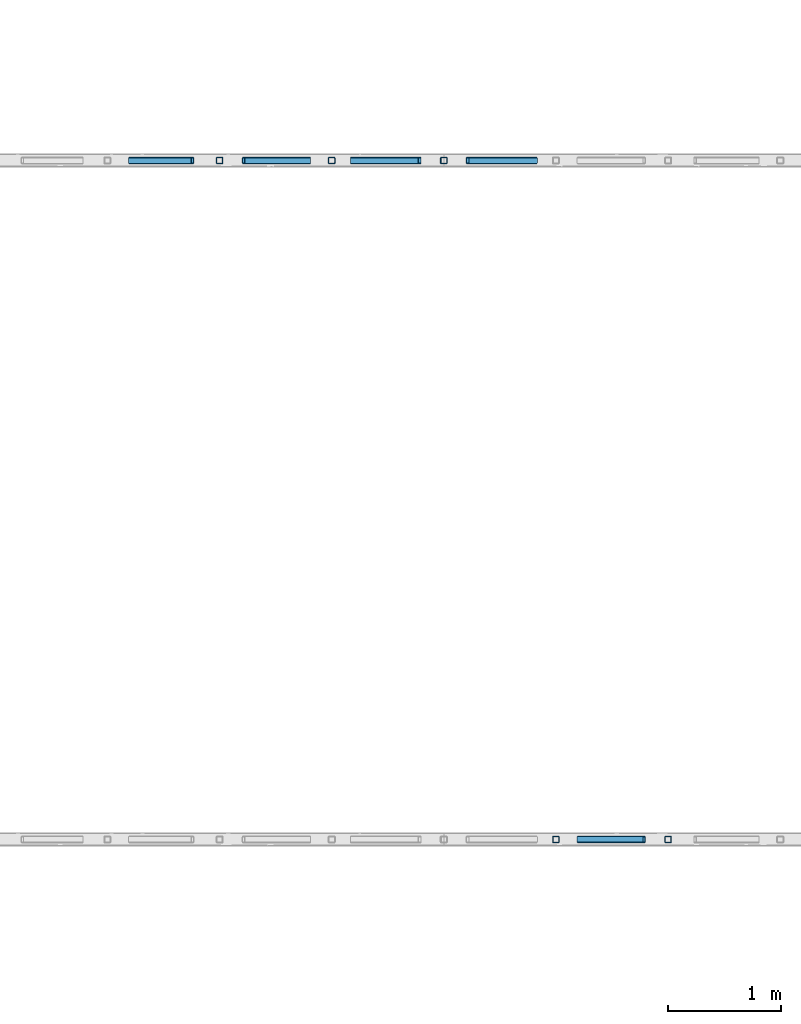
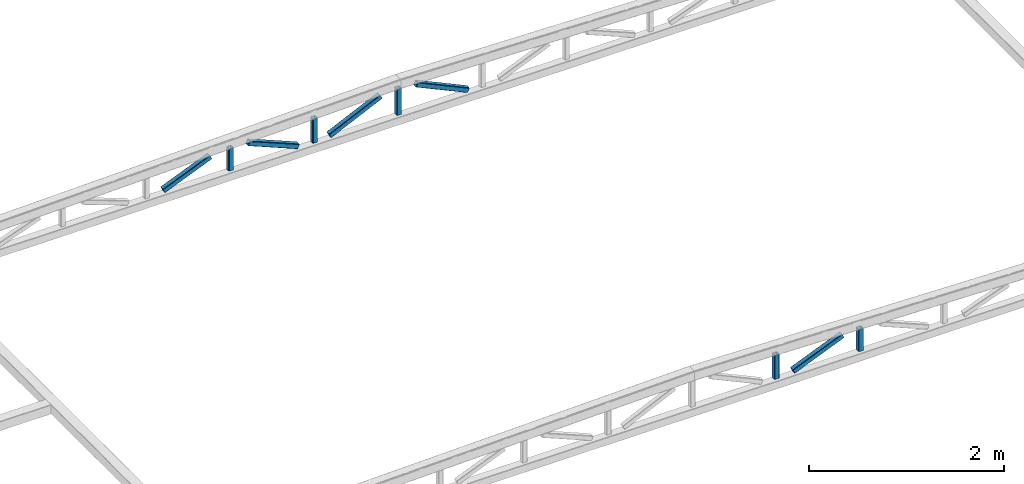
# One storey, part 8 of 10: 10 members, 2 elements without a shape of their own.
"""IFC2X3 building model written with IfcOpenShell, lengths in millimetres."""

from ifc_helpers import new_model, entity, si_unit, converted_unit, derived_unit, direction, frame, frame_2d, origin, place, context, subcontext, project, spatial, polyline, circle_curve, parameter, trimmed, segment, composite_curve, outline, extrude, source, transform, mapped, type_object, type_shapes, element, aggregate, save


model = new_model("IFC2X3")

# Units and contexts
model_context = context("Model", 3, precision=0.01, world=origin(), true_north=direction((6.12303176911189e-17, 1.0)))
body_context = subcontext(model_context, "Body", "Model", "MODEL_VIEW")
ifc_project = project(units=[si_unit("LENGTHUNIT", "METRE", prefix="MILLI"), si_unit("AREAUNIT", "SQUARE_METRE"), si_unit("VOLUMEUNIT", "CUBIC_METRE"), converted_unit("PLANEANGLEUNIT", "DEGREE", entity("IfcRatioMeasure", 0.0174532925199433), si_unit("PLANEANGLEUNIT", "RADIAN"), dimensions=[0, 0, 0, 0, 0, 0, 0]), si_unit("MASSUNIT", "GRAM", prefix="KILO"), derived_unit("MASSDENSITYUNIT", [(si_unit("MASSUNIT", "GRAM", prefix="KILO"), 1), (si_unit("LENGTHUNIT", "METRE"), -3)]), si_unit("TIMEUNIT", "SECOND"), si_unit("FREQUENCYUNIT", "HERTZ"), si_unit("THERMODYNAMICTEMPERATUREUNIT", "DEGREE_CELSIUS"), derived_unit("THERMALTRANSMITTANCEUNIT", [(si_unit("MASSUNIT", "GRAM", prefix="KILO"), 1), (si_unit("THERMODYNAMICTEMPERATUREUNIT", "KELVIN"), -1), (si_unit("TIMEUNIT", "SECOND"), -3)]), derived_unit("VOLUMETRICFLOWRATEUNIT", [(si_unit("LENGTHUNIT", "METRE"), 3), (si_unit("TIMEUNIT", "SECOND"), -1)]), si_unit("ELECTRICCURRENTUNIT", "AMPERE"), si_unit("ELECTRICVOLTAGEUNIT", "VOLT"), si_unit("POWERUNIT", "WATT"), si_unit("FORCEUNIT", "NEWTON", prefix="KILO"), si_unit("ILLUMINANCEUNIT", "LUX"), si_unit("LUMINOUSFLUXUNIT", "LUMEN"), si_unit("LUMINOUSINTENSITYUNIT", "CANDELA"), derived_unit("USERDEFINED", [(si_unit("MASSUNIT", "GRAM", prefix="KILO"), -1), (si_unit("LENGTHUNIT", "METRE"), -2), (si_unit("TIMEUNIT", "SECOND"), 3), (si_unit("LUMINOUSFLUXUNIT", "LUMEN"), 1)]), derived_unit("LINEARVELOCITYUNIT", [(si_unit("LENGTHUNIT", "METRE"), 1), (si_unit("TIMEUNIT", "SECOND"), -1)]), si_unit("PRESSUREUNIT", "PASCAL"), derived_unit("USERDEFINED", [(si_unit("LENGTHUNIT", "METRE"), -2), (si_unit("MASSUNIT", "GRAM", prefix="KILO"), 1), (si_unit("TIMEUNIT", "SECOND"), -2)])], contexts=[model_context])

# Site, building, storey
site_placement = place(None, frame((0.0, 0.0, 101000.0)))
site = spatial("IfcSite", under=ifc_project, at=site_placement, Name="Default", CompositionType="ELEMENT")
building_placement = place(site_placement, origin())
building = spatial("IfcBuilding", under=site, at=building_placement, CompositionType="ELEMENT")
storey_placement = place(building_placement, frame((0.0, 0.0, 6025.0)))
storey = spatial("IfcBuildingStorey", under=building, at=storey_placement, Name="03", CompositionType="ELEMENT", Elevation=6024.9999999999)

# Assembly, member
assembly_1_placement = place(storey_placement, origin())
assembly_1 = element("IfcElementAssembly", 1, at=assembly_1_placement, inside=storey, Name="Gitterdrager:Standard", ObjectType="Gitterdrager:Standard", AssemblyPlace="NOTDEFINED", PredefinedType="TRUSS")
member_type_1 = type_object("IfcMemberType", Name="60x60x5", PredefinedType="BRACE")
shared_shape_1 = source(origin(), body_context, "Body", "SweptSolid", [
    extrude(outline(composite_curve([segment(trimmed(circle_curve(frame_2d((-20.0, -20.0), x_axis=(1.0, 0.0)), 10.0), [parameter(180.0)], [parameter(270.0)], True, "PARAMETER"), True, "CONTINUOUS"), segment(polyline([(-20.0, -30.0), (20.0, -30.0)]), True, "CONTINUOUS"), segment(trimmed(circle_curve(frame_2d((20.0, -20.0), x_axis=(1.0, 0.0)), 10.0), [parameter(270.0)], [parameter(5.08888749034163e-14)], True, "PARAMETER"), True, "CONTINUOUS"), segment(polyline([(30.0, -20.0), (30.0, 20.0)]), True, "CONTINUOUS"), segment(trimmed(circle_curve(frame_2d((20.0, 20.0), x_axis=(1.0, 0.0)), 10.0), [parameter(360.0)], [parameter(89.9999999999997)], True, "PARAMETER"), True, "CONTINUOUS"), segment(polyline([(20.0, 30.0), (-20.0, 30.0)]), True, "CONTINUOUS"), segment(trimmed(circle_curve(frame_2d((-20.0, 20.0), x_axis=(1.0, 0.0)), 10.0), [parameter(90.0000000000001)], [parameter(180.0)], True, "PARAMETER"), True, "CONTINUOUS"), segment(polyline([(-30.0, 20.0), (-30.0, -20.0)]), True, "CONTINUOUS")], self_intersect=False), holes=[composite_curve([segment(polyline([(20.0, -25.0), (-20.0, -25.0)]), True, "CONTINUOUS"), segment(trimmed(circle_curve(frame_2d((-20.0, -20.0), x_axis=(1.0, 0.0)), 5.0), [parameter(180.0)], [parameter(270.0)], True, "PARAMETER"), False, "CONTINUOUS"), segment(polyline([(-25.0, -20.0), (-25.0, 20.0)]), True, "CONTINUOUS"), segment(trimmed(circle_curve(frame_2d((-20.0, 20.0), x_axis=(1.0, 0.0)), 5.0), [parameter(90.0000000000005)], [parameter(180.0)], True, "PARAMETER"), False, "CONTINUOUS"), segment(polyline([(-20.0, 25.0), (20.0, 25.0)]), True, "CONTINUOUS"), segment(trimmed(circle_curve(frame_2d((20.0, 20.0), x_axis=(1.0, 0.0)), 5.0), [parameter(0.0)], [parameter(90.0000000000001)], True, "PARAMETER"), False, "CONTINUOUS"), segment(polyline([(25.0, 20.0), (25.0, -20.0)]), True, "CONTINUOUS"), segment(trimmed(circle_curve(frame_2d((20.0, -20.0), x_axis=(1.0, 0.0)), 5.0), [parameter(270.0)], [parameter(4.57999874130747e-13)], True, "PARAMETER"), False, "CONTINUOUS")], self_intersect=False)]), frame((-168.190907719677, 0.0, 0.0), z_axis=(1.0, 0.0, 0.0), x_axis=(0.0, -1.0, 0.0)), (0.0, 0.0, 1.0), 324.846388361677),
])
type_shapes(member_type_1, [shared_shape_1])
member_1_placement = place(assembly_1_placement, frame((17226.2644969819, 38432.1864743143, -110.132847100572), z_axis=(1.0, 0.0, 0.0), x_axis=(0.0, 0.0, 1.0)))
member_1 = element("IfcMember", 2, at=member_1_placement, type_object=member_type_1, Name="Bjelke HUP:60x60x5", ObjectType="60x60x5", context=body_context, shape_type="MappedRepresentation", body=[
    mapped(shared_shape_1, transform((0.0, 0.0, 0.0), scale=1.0)),
])

assembly_2_placement = place(storey_placement, origin())
assembly_2 = element("IfcElementAssembly", 3, at=assembly_2_placement, inside=storey, Name="Gitterdrager:Standard", ObjectType="Gitterdrager:Standard", AssemblyPlace="NOTDEFINED", PredefinedType="TRUSS")
member_type_2 = type_object("IfcMemberType", Name="60x60x5", PredefinedType="BRACE")
shared_shape_2 = source(origin(), body_context, "Body", "SweptSolid", [
    extrude(outline(composite_curve([segment(trimmed(circle_curve(frame_2d((-20.0, -20.0), x_axis=(1.0, 0.0)), 10.0), [parameter(180.0)], [parameter(270.0)], True, "PARAMETER"), True, "CONTINUOUS"), segment(polyline([(-20.0, -30.0), (20.0, -30.0)]), True, "CONTINUOUS"), segment(trimmed(circle_curve(frame_2d((20.0, -20.0), x_axis=(1.0, 0.0)), 10.0), [parameter(270.0)], [parameter(5.08888749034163e-14)], True, "PARAMETER"), True, "CONTINUOUS"), segment(polyline([(30.0, -20.0), (30.0, 20.0)]), True, "CONTINUOUS"), segment(trimmed(circle_curve(frame_2d((20.0, 20.0), x_axis=(1.0, 0.0)), 10.0), [parameter(360.0)], [parameter(89.9999999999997)], True, "PARAMETER"), True, "CONTINUOUS"), segment(polyline([(20.0, 30.0), (-20.0, 30.0)]), True, "CONTINUOUS"), segment(trimmed(circle_curve(frame_2d((-20.0, 20.0), x_axis=(1.0, 0.0)), 10.0), [parameter(90.0000000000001)], [parameter(180.0)], True, "PARAMETER"), True, "CONTINUOUS"), segment(polyline([(-30.0, 20.0), (-30.0, -20.0)]), True, "CONTINUOUS")], self_intersect=False), holes=[composite_curve([segment(polyline([(20.0, -25.0), (-20.0, -25.0)]), True, "CONTINUOUS"), segment(trimmed(circle_curve(frame_2d((-20.0, -20.0), x_axis=(1.0, 0.0)), 5.0), [parameter(180.0)], [parameter(270.0)], True, "PARAMETER"), False, "CONTINUOUS"), segment(polyline([(-25.0, -20.0), (-25.0, 20.0)]), True, "CONTINUOUS"), segment(trimmed(circle_curve(frame_2d((-20.0, 20.0), x_axis=(1.0, 0.0)), 5.0), [parameter(90.0000000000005)], [parameter(180.0)], True, "PARAMETER"), False, "CONTINUOUS"), segment(polyline([(-20.0, 25.0), (20.0, 25.0)]), True, "CONTINUOUS"), segment(trimmed(circle_curve(frame_2d((20.0, 20.0), x_axis=(1.0, 0.0)), 5.0), [parameter(0.0)], [parameter(90.0000000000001)], True, "PARAMETER"), False, "CONTINUOUS"), segment(polyline([(25.0, 20.0), (25.0, -20.0)]), True, "CONTINUOUS"), segment(trimmed(circle_curve(frame_2d((20.0, -20.0), x_axis=(1.0, 0.0)), 5.0), [parameter(270.0)], [parameter(4.57999874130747e-13)], True, "PARAMETER"), False, "CONTINUOUS")], self_intersect=False)]), frame((-155.792423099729, 0.0, 0.0), z_axis=(1.0, 0.0, 0.0), x_axis=(0.0, -1.0, 0.0)), (0.0, 0.0, 1.0), 300.049419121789),
])
type_shapes(member_type_2, [shared_shape_2])
member_2_placement = place(assembly_2_placement, frame((18219.5978303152, 32417.9507529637, -122.531331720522), z_axis=(1.0, 0.0, 0.0), x_axis=(0.0, 0.0, 1.0)))
member_2 = element("IfcMember", 4, at=member_2_placement, type_object=member_type_2, Name="Bjelke HUP:60x60x5", ObjectType="60x60x5", context=body_context, shape_type="MappedRepresentation", body=[
    mapped(shared_shape_2, transform((0.0, 0.0, 0.0), scale=1.0)),
])

# Member
member_3_placement = place(assembly_1_placement, frame((16232.9311636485, 38432.1864743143, -122.531331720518), z_axis=(1.0, 0.0, 0.0), x_axis=(0.0, 0.0, 1.0)))
member_3 = element("IfcMember", 5, at=member_3_placement, type_object=member_type_2, Name="Bjelke HUP:60x60x5", ObjectType="60x60x5", context=body_context, shape_type="MappedRepresentation", body=[
    mapped(shared_shape_2, transform((0.0, 0.0, 0.0), scale=1.0)),
])

member_type_3 = type_object("IfcMemberType", Name="60x60x5", PredefinedType="BRACE")
shared_shape_3 = source(origin(), body_context, "Body", "SweptSolid", [
    extrude(outline(composite_curve([segment(trimmed(circle_curve(frame_2d((-20.0, -20.0), x_axis=(1.0, 0.0)), 10.0), [parameter(180.0)], [parameter(270.0)], True, "PARAMETER"), True, "CONTINUOUS"), segment(polyline([(-20.0, -30.0), (20.0, -30.0)]), True, "CONTINUOUS"), segment(trimmed(circle_curve(frame_2d((20.0, -20.0), x_axis=(1.0, 0.0)), 10.0), [parameter(270.0)], [parameter(5.08888749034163e-14)], True, "PARAMETER"), True, "CONTINUOUS"), segment(polyline([(30.0, -20.0), (30.0, 20.0)]), True, "CONTINUOUS"), segment(trimmed(circle_curve(frame_2d((20.0, 20.0), x_axis=(1.0, 0.0)), 10.0), [parameter(360.0)], [parameter(89.9999999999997)], True, "PARAMETER"), True, "CONTINUOUS"), segment(polyline([(20.0, 30.0), (-20.0, 30.0)]), True, "CONTINUOUS"), segment(trimmed(circle_curve(frame_2d((-20.0, 20.0), x_axis=(1.0, 0.0)), 10.0), [parameter(90.0000000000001)], [parameter(180.0)], True, "PARAMETER"), True, "CONTINUOUS"), segment(polyline([(-30.0, 20.0), (-30.0, -20.0)]), True, "CONTINUOUS")], self_intersect=False), holes=[composite_curve([segment(polyline([(20.0, -25.0), (-20.0, -25.0)]), True, "CONTINUOUS"), segment(trimmed(circle_curve(frame_2d((-20.0, -20.0), x_axis=(1.0, 0.0)), 5.0), [parameter(180.0)], [parameter(270.0)], True, "PARAMETER"), False, "CONTINUOUS"), segment(polyline([(-25.0, -20.0), (-25.0, 20.0)]), True, "CONTINUOUS"), segment(trimmed(circle_curve(frame_2d((-20.0, 20.0), x_axis=(1.0, 0.0)), 5.0), [parameter(90.0000000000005)], [parameter(180.0)], True, "PARAMETER"), False, "CONTINUOUS"), segment(polyline([(-20.0, 25.0), (20.0, 25.0)]), True, "CONTINUOUS"), segment(trimmed(circle_curve(frame_2d((20.0, 20.0), x_axis=(1.0, 0.0)), 5.0), [parameter(0.0)], [parameter(90.0000000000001)], True, "PARAMETER"), False, "CONTINUOUS"), segment(polyline([(25.0, 20.0), (25.0, -20.0)]), True, "CONTINUOUS"), segment(trimmed(circle_curve(frame_2d((20.0, -20.0), x_axis=(1.0, 0.0)), 5.0), [parameter(270.0)], [parameter(4.57999874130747e-13)], True, "PARAMETER"), False, "CONTINUOUS")], self_intersect=False)]), frame((-143.393968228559, 0.0, 0.0), z_axis=(1.0, 0.0, 0.0), x_axis=(0.0, -1.0, 0.0)), (0.0, 0.0, 1.0), 275.252509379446),
])
type_shapes(member_type_3, [shared_shape_3])
member_4_placement = place(assembly_1_placement, frame((15239.6002137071, 38432.1864743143, -134.929786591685), z_axis=(1.0, 0.0, 0.0), x_axis=(0.0, 0.0, 1.0)))
member_4 = element("IfcMember", 6, at=member_4_placement, type_object=member_type_3, Name="Bjelke HUP:60x60x5", ObjectType="60x60x5", context=body_context, shape_type="MappedRepresentation", body=[
    mapped(shared_shape_3, transform((0.0, 0.0, 0.0), scale=1.0)),
])

member_type_4 = type_object("IfcMemberType", Name="60x60x5", PredefinedType="BRACE")
shared_shape_4 = source(origin(), body_context, "Body", "SweptSolid", [
    extrude(outline(composite_curve([segment(trimmed(circle_curve(frame_2d((-20.0, -20.0), x_axis=(1.0, 0.0)), 10.0), [parameter(180.0)], [parameter(270.0)], True, "PARAMETER"), True, "CONTINUOUS"), segment(polyline([(-20.0, -30.0), (20.0, -30.0)]), True, "CONTINUOUS"), segment(trimmed(circle_curve(frame_2d((20.0, -20.0), x_axis=(1.0, 0.0)), 10.0), [parameter(270.0)], [parameter(5.08888749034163e-14)], True, "PARAMETER"), True, "CONTINUOUS"), segment(polyline([(30.0, -20.0), (30.0, 20.0)]), True, "CONTINUOUS"), segment(trimmed(circle_curve(frame_2d((20.0, 20.0), x_axis=(1.0, 0.0)), 10.0), [parameter(360.0)], [parameter(89.9999999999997)], True, "PARAMETER"), True, "CONTINUOUS"), segment(polyline([(20.0, 30.0), (-20.0, 30.0)]), True, "CONTINUOUS"), segment(trimmed(circle_curve(frame_2d((-20.0, 20.0), x_axis=(1.0, 0.0)), 10.0), [parameter(90.0000000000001)], [parameter(180.0)], True, "PARAMETER"), True, "CONTINUOUS"), segment(polyline([(-30.0, 20.0), (-30.0, -20.0)]), True, "CONTINUOUS")], self_intersect=False), holes=[composite_curve([segment(polyline([(20.0, -25.0), (-20.0, -25.0)]), True, "CONTINUOUS"), segment(trimmed(circle_curve(frame_2d((-20.0, -20.0), x_axis=(1.0, 0.0)), 5.0), [parameter(180.0)], [parameter(270.0)], True, "PARAMETER"), False, "CONTINUOUS"), segment(polyline([(-25.0, -20.0), (-25.0, 20.0)]), True, "CONTINUOUS"), segment(trimmed(circle_curve(frame_2d((-20.0, 20.0), x_axis=(1.0, 0.0)), 5.0), [parameter(90.0000000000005)], [parameter(180.0)], True, "PARAMETER"), False, "CONTINUOUS"), segment(polyline([(-20.0, 25.0), (20.0, 25.0)]), True, "CONTINUOUS"), segment(trimmed(circle_curve(frame_2d((20.0, 20.0), x_axis=(1.0, 0.0)), 5.0), [parameter(0.0)], [parameter(90.0000000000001)], True, "PARAMETER"), False, "CONTINUOUS"), segment(polyline([(25.0, 20.0), (25.0, -20.0)]), True, "CONTINUOUS"), segment(trimmed(circle_curve(frame_2d((20.0, -20.0), x_axis=(1.0, 0.0)), 5.0), [parameter(270.0)], [parameter(4.57999874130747e-13)], True, "PARAMETER"), False, "CONTINUOUS")], self_intersect=False)]), frame((-143.393938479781, 0.0, 0.0), z_axis=(1.0, 0.0, 0.0), x_axis=(0.0, -1.0, 0.0)), (0.0, 0.0, 1.0), 275.252449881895),
])
type_shapes(member_type_4, [shared_shape_4])
member_5_placement = place(assembly_2_placement, frame((19212.9311636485, 32417.9507529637, -134.929816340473), z_axis=(1.0, 0.0, 0.0), x_axis=(0.0, 0.0, 1.0)))
member_5 = element("IfcMember", 7, at=member_5_placement, type_object=member_type_4, Name="Bjelke HUP:60x60x5", ObjectType="60x60x5", context=body_context, shape_type="MappedRepresentation", body=[
    mapped(shared_shape_4, transform((0.0, 0.0, 0.0), scale=1.0)),
])

member_type_5 = type_object("IfcMemberType", Name="60x60x5", PredefinedType="BRACE")
shared_shape_5 = source(origin(), body_context, "Body", "SweptSolid", [
    extrude(outline(composite_curve([segment(trimmed(circle_curve(frame_2d((-20.0, -20.0), x_axis=(1.0, 0.0)), 10.0), [parameter(180.0)], [parameter(270.0)], True, "PARAMETER"), True, "CONTINUOUS"), segment(polyline([(-20.0, -30.0), (20.0, -30.0)]), True, "CONTINUOUS"), segment(trimmed(circle_curve(frame_2d((20.0, -20.0), x_axis=(1.0, 0.0)), 10.0), [parameter(270.0)], [parameter(5.08888749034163e-14)], True, "PARAMETER"), True, "CONTINUOUS"), segment(polyline([(30.0, -20.0), (30.0, 20.0)]), True, "CONTINUOUS"), segment(trimmed(circle_curve(frame_2d((20.0, 20.0), x_axis=(1.0, 0.0)), 10.0), [parameter(360.0)], [parameter(89.9999999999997)], True, "PARAMETER"), True, "CONTINUOUS"), segment(polyline([(20.0, 30.0), (-20.0, 30.0)]), True, "CONTINUOUS"), segment(trimmed(circle_curve(frame_2d((-20.0, 20.0), x_axis=(1.0, 0.0)), 10.0), [parameter(90.0000000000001)], [parameter(180.0)], True, "PARAMETER"), True, "CONTINUOUS"), segment(polyline([(-30.0, 20.0), (-30.0, -20.0)]), True, "CONTINUOUS")], self_intersect=False), holes=[composite_curve([segment(polyline([(20.0, -25.0), (-20.0, -25.0)]), True, "CONTINUOUS"), segment(trimmed(circle_curve(frame_2d((-20.0, -20.0), x_axis=(1.0, 0.0)), 5.0), [parameter(180.0)], [parameter(270.0)], True, "PARAMETER"), False, "CONTINUOUS"), segment(polyline([(-25.0, -20.0), (-25.0, 20.0)]), True, "CONTINUOUS"), segment(trimmed(circle_curve(frame_2d((-20.0, 20.0), x_axis=(1.0, 0.0)), 5.0), [parameter(90.0000000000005)], [parameter(180.0)], True, "PARAMETER"), False, "CONTINUOUS"), segment(polyline([(-20.0, 25.0), (20.0, 25.0)]), True, "CONTINUOUS"), segment(trimmed(circle_curve(frame_2d((20.0, 20.0), x_axis=(1.0, 0.0)), 5.0), [parameter(0.0)], [parameter(90.0000000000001)], True, "PARAMETER"), False, "CONTINUOUS"), segment(polyline([(25.0, 20.0), (25.0, -20.0)]), True, "CONTINUOUS"), segment(trimmed(circle_curve(frame_2d((20.0, -20.0), x_axis=(1.0, 0.0)), 5.0), [parameter(270.0)], [parameter(4.57999874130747e-13)], True, "PARAMETER"), False, "CONTINUOUS")], self_intersect=False)]), frame((-351.247436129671, 0.0, 0.0), z_axis=(1.0, 0.0, 0.0), x_axis=(0.0, -1.0, 0.0)), (0.0, 0.0, 1.0), 664.357457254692),
])
type_shapes(member_type_5, [shared_shape_5])
member_6_placement = place(assembly_1_placement, frame((16728.5730107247, 38432.1864743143, -110.158430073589), z_axis=(0.422233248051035, 0.0, -0.906487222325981), x_axis=(0.906487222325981, 0.0, 0.422233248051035)))
member_6 = element("IfcMember", 8, at=member_6_placement, type_object=member_type_5, Name="Bjelke HUP:60x60x5", ObjectType="60x60x5", context=body_context, shape_type="MappedRepresentation", body=[
    mapped(shared_shape_5, transform((0.0, 0.0, 0.0), scale=1.0)),
])

member_type_6 = type_object("IfcMemberType", Name="60x60x5", PredefinedType="BRACE")
shared_shape_6 = source(origin(), body_context, "Body", "SweptSolid", [
    extrude(outline(composite_curve([segment(trimmed(circle_curve(frame_2d((-20.0, -20.0), x_axis=(1.0, 0.0)), 10.0), [parameter(180.0)], [parameter(270.0)], True, "PARAMETER"), True, "CONTINUOUS"), segment(polyline([(-20.0, -30.0), (20.0, -30.0)]), True, "CONTINUOUS"), segment(trimmed(circle_curve(frame_2d((20.0, -20.0), x_axis=(1.0, 0.0)), 10.0), [parameter(270.0)], [parameter(5.08888749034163e-14)], True, "PARAMETER"), True, "CONTINUOUS"), segment(polyline([(30.0, -20.0), (30.0, 20.0)]), True, "CONTINUOUS"), segment(trimmed(circle_curve(frame_2d((20.0, 20.0), x_axis=(1.0, 0.0)), 10.0), [parameter(360.0)], [parameter(89.9999999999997)], True, "PARAMETER"), True, "CONTINUOUS"), segment(polyline([(20.0, 30.0), (-20.0, 30.0)]), True, "CONTINUOUS"), segment(trimmed(circle_curve(frame_2d((-20.0, 20.0), x_axis=(1.0, 0.0)), 10.0), [parameter(90.0000000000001)], [parameter(180.0)], True, "PARAMETER"), True, "CONTINUOUS"), segment(polyline([(-30.0, 20.0), (-30.0, -20.0)]), True, "CONTINUOUS")], self_intersect=False), holes=[composite_curve([segment(polyline([(20.0, -25.0), (-20.0, -25.0)]), True, "CONTINUOUS"), segment(trimmed(circle_curve(frame_2d((-20.0, -20.0), x_axis=(1.0, 0.0)), 5.0), [parameter(180.0)], [parameter(270.0)], True, "PARAMETER"), False, "CONTINUOUS"), segment(polyline([(-25.0, -20.0), (-25.0, 20.0)]), True, "CONTINUOUS"), segment(trimmed(circle_curve(frame_2d((-20.0, 20.0), x_axis=(1.0, 0.0)), 5.0), [parameter(90.0000000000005)], [parameter(180.0)], True, "PARAMETER"), False, "CONTINUOUS"), segment(polyline([(-20.0, 25.0), (20.0, 25.0)]), True, "CONTINUOUS"), segment(trimmed(circle_curve(frame_2d((20.0, 20.0), x_axis=(1.0, 0.0)), 5.0), [parameter(0.0)], [parameter(90.0000000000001)], True, "PARAMETER"), False, "CONTINUOUS"), segment(polyline([(25.0, 20.0), (25.0, -20.0)]), True, "CONTINUOUS"), segment(trimmed(circle_curve(frame_2d((20.0, -20.0), x_axis=(1.0, 0.0)), 5.0), [parameter(270.0)], [parameter(4.57999874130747e-13)], True, "PARAMETER"), False, "CONTINUOUS")], self_intersect=False)]), frame((-322.27532019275, 0.0, 0.0), z_axis=(1.0, 0.0, 0.0), x_axis=(0.0, -1.0, 0.0)), (0.0, 0.0, 1.0), 600.830243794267),
])
type_shapes(member_type_6, [shared_shape_6])
member_7_placement = place(assembly_1_placement, frame((14742.9323553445, 38432.1864743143, -134.929786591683), z_axis=(0.383266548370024, 0.0, -0.923637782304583), x_axis=(0.923637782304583, 0.0, 0.383266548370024)))
member_7 = element("IfcMember", 9, at=member_7_placement, type_object=member_type_6, Name="Bjelke HUP:60x60x5", ObjectType="60x60x5", context=body_context, shape_type="MappedRepresentation", body=[
    mapped(shared_shape_6, transform((0.0, 0.0, 0.0), scale=1.0)),
])

member_type_7 = type_object("IfcMemberType", Name="60x60x5", PredefinedType="BRACE")
shared_shape_7 = source(origin(), body_context, "Body", "SweptSolid", [
    extrude(outline(composite_curve([segment(trimmed(circle_curve(frame_2d((-20.0, -20.0), x_axis=(1.0, 0.0)), 10.0), [parameter(180.0)], [parameter(270.0)], True, "PARAMETER"), True, "CONTINUOUS"), segment(polyline([(-20.0, -30.0), (20.0, -30.0)]), True, "CONTINUOUS"), segment(trimmed(circle_curve(frame_2d((20.0, -20.0), x_axis=(1.0, 0.0)), 10.0), [parameter(270.0)], [parameter(5.08888749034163e-14)], True, "PARAMETER"), True, "CONTINUOUS"), segment(polyline([(30.0, -20.0), (30.0, 20.0)]), True, "CONTINUOUS"), segment(trimmed(circle_curve(frame_2d((20.0, 20.0), x_axis=(1.0, 0.0)), 10.0), [parameter(360.0)], [parameter(89.9999999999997)], True, "PARAMETER"), True, "CONTINUOUS"), segment(polyline([(20.0, 30.0), (-20.0, 30.0)]), True, "CONTINUOUS"), segment(trimmed(circle_curve(frame_2d((-20.0, 20.0), x_axis=(1.0, 0.0)), 10.0), [parameter(90.0000000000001)], [parameter(180.0)], True, "PARAMETER"), True, "CONTINUOUS"), segment(polyline([(-30.0, 20.0), (-30.0, -20.0)]), True, "CONTINUOUS")], self_intersect=False), holes=[composite_curve([segment(polyline([(20.0, -25.0), (-20.0, -25.0)]), True, "CONTINUOUS"), segment(trimmed(circle_curve(frame_2d((-20.0, -20.0), x_axis=(1.0, 0.0)), 5.0), [parameter(180.0)], [parameter(270.0)], True, "PARAMETER"), False, "CONTINUOUS"), segment(polyline([(-25.0, -20.0), (-25.0, 20.0)]), True, "CONTINUOUS"), segment(trimmed(circle_curve(frame_2d((-20.0, 20.0), x_axis=(1.0, 0.0)), 5.0), [parameter(90.0000000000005)], [parameter(180.0)], True, "PARAMETER"), False, "CONTINUOUS"), segment(polyline([(-20.0, 25.0), (20.0, 25.0)]), True, "CONTINUOUS"), segment(trimmed(circle_curve(frame_2d((20.0, 20.0), x_axis=(1.0, 0.0)), 5.0), [parameter(0.0)], [parameter(90.0000000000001)], True, "PARAMETER"), False, "CONTINUOUS"), segment(polyline([(25.0, 20.0), (25.0, -20.0)]), True, "CONTINUOUS"), segment(trimmed(circle_curve(frame_2d((20.0, -20.0), x_axis=(1.0, 0.0)), 5.0), [parameter(270.0)], [parameter(4.57999874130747e-13)], True, "PARAMETER"), False, "CONTINUOUS")], self_intersect=False)]), frame((-307.939240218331, 0.0, 0.0), z_axis=(1.0, 0.0, 0.0), x_axis=(0.0, -1.0, 0.0)), (0.0, 0.0, 1.0), 630.213240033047),
])
type_shapes(member_type_7, [shared_shape_7])
member_8_placement = place(assembly_1_placement, frame((15736.2656886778, 38432.1864743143, -134.929786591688), z_axis=(-0.383268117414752, 0.0, -0.923637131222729), x_axis=(0.923637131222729, 0.0, -0.383268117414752)))
member_8 = element("IfcMember", 10, at=member_8_placement, type_object=member_type_7, Name="Bjelke HUP:60x60x5", ObjectType="60x60x5", context=body_context, shape_type="MappedRepresentation", body=[
    mapped(shared_shape_7, transform((0.0, 0.0, 0.0), scale=1.0)),
])

member_type_8 = type_object("IfcMemberType", Name="60x60x5", PredefinedType="BRACE")
shared_shape_8 = source(origin(), body_context, "Body", "SweptSolid", [
    extrude(outline(composite_curve([segment(trimmed(circle_curve(frame_2d((-20.0, -20.0), x_axis=(1.0, 0.0)), 10.0), [parameter(180.0)], [parameter(270.0)], True, "PARAMETER"), True, "CONTINUOUS"), segment(polyline([(-20.0, -30.0), (20.0, -30.0)]), True, "CONTINUOUS"), segment(trimmed(circle_curve(frame_2d((20.0, -20.0), x_axis=(1.0, 0.0)), 10.0), [parameter(270.0)], [parameter(5.08888749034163e-14)], True, "PARAMETER"), True, "CONTINUOUS"), segment(polyline([(30.0, -20.0), (30.0, 20.0)]), True, "CONTINUOUS"), segment(trimmed(circle_curve(frame_2d((20.0, 20.0), x_axis=(1.0, 0.0)), 10.0), [parameter(360.0)], [parameter(89.9999999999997)], True, "PARAMETER"), True, "CONTINUOUS"), segment(polyline([(20.0, 30.0), (-20.0, 30.0)]), True, "CONTINUOUS"), segment(trimmed(circle_curve(frame_2d((-20.0, 20.0), x_axis=(1.0, 0.0)), 10.0), [parameter(90.0000000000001)], [parameter(180.0)], True, "PARAMETER"), True, "CONTINUOUS"), segment(polyline([(-30.0, 20.0), (-30.0, -20.0)]), True, "CONTINUOUS")], self_intersect=False), holes=[composite_curve([segment(polyline([(20.0, -25.0), (-20.0, -25.0)]), True, "CONTINUOUS"), segment(trimmed(circle_curve(frame_2d((-20.0, -20.0), x_axis=(1.0, 0.0)), 5.0), [parameter(180.0)], [parameter(270.0)], True, "PARAMETER"), False, "CONTINUOUS"), segment(polyline([(-25.0, -20.0), (-25.0, 20.0)]), True, "CONTINUOUS"), segment(trimmed(circle_curve(frame_2d((-20.0, 20.0), x_axis=(1.0, 0.0)), 5.0), [parameter(90.0000000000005)], [parameter(180.0)], True, "PARAMETER"), False, "CONTINUOUS"), segment(polyline([(-20.0, 25.0), (20.0, 25.0)]), True, "CONTINUOUS"), segment(trimmed(circle_curve(frame_2d((20.0, 20.0), x_axis=(1.0, 0.0)), 5.0), [parameter(0.0)], [parameter(90.0000000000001)], True, "PARAMETER"), False, "CONTINUOUS"), segment(polyline([(25.0, 20.0), (25.0, -20.0)]), True, "CONTINUOUS"), segment(trimmed(circle_curve(frame_2d((20.0, -20.0), x_axis=(1.0, 0.0)), 5.0), [parameter(270.0)], [parameter(4.57999874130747e-13)], True, "PARAMETER"), False, "CONTINUOUS")], self_intersect=False)]), frame((-314.375226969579, 0.0, 0.0), z_axis=(1.0, 0.0, 0.0), x_axis=(0.0, -1.0, 0.0)), (0.0, 0.0, 1.0), 666.812434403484),
])
type_shapes(member_type_8, [shared_shape_8])
member_9_placement = place(assembly_1_placement, frame((17721.906344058, 38432.1864743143, -110.158430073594), z_axis=(-0.420802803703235, 0.0, -0.907152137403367), x_axis=(0.907152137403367, 0.0, -0.420802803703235)))
member_9 = element("IfcMember", 11, at=member_9_placement, type_object=member_type_8, Name="Bjelke HUP:60x60x5", ObjectType="60x60x5", context=body_context, shape_type="MappedRepresentation", body=[
    mapped(shared_shape_8, transform((0.0, 0.0, 0.0), scale=1.0)),
])

aggregate(assembly_1, [member_1, member_3, member_4, member_6, member_7, member_8, member_9])

member_type_9 = type_object("IfcMemberType", Name="60x60x5", PredefinedType="BRACE")
shared_shape_9 = source(origin(), body_context, "Body", "SweptSolid", [
    extrude(outline(composite_curve([segment(trimmed(circle_curve(frame_2d((-20.0, -20.0), x_axis=(1.0, 0.0)), 10.0), [parameter(180.0)], [parameter(270.0)], True, "PARAMETER"), True, "CONTINUOUS"), segment(polyline([(-20.0, -30.0), (20.0, -30.0)]), True, "CONTINUOUS"), segment(trimmed(circle_curve(frame_2d((20.0, -20.0), x_axis=(1.0, 0.0)), 10.0), [parameter(270.0)], [parameter(5.08888749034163e-14)], True, "PARAMETER"), True, "CONTINUOUS"), segment(polyline([(30.0, -20.0), (30.0, 20.0)]), True, "CONTINUOUS"), segment(trimmed(circle_curve(frame_2d((20.0, 20.0), x_axis=(1.0, 0.0)), 10.0), [parameter(360.0)], [parameter(89.9999999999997)], True, "PARAMETER"), True, "CONTINUOUS"), segment(polyline([(20.0, 30.0), (-20.0, 30.0)]), True, "CONTINUOUS"), segment(trimmed(circle_curve(frame_2d((-20.0, 20.0), x_axis=(1.0, 0.0)), 10.0), [parameter(90.0000000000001)], [parameter(180.0)], True, "PARAMETER"), True, "CONTINUOUS"), segment(polyline([(-30.0, 20.0), (-30.0, -20.0)]), True, "CONTINUOUS")], self_intersect=False), holes=[composite_curve([segment(polyline([(20.0, -25.0), (-20.0, -25.0)]), True, "CONTINUOUS"), segment(trimmed(circle_curve(frame_2d((-20.0, -20.0), x_axis=(1.0, 0.0)), 5.0), [parameter(180.0)], [parameter(270.0)], True, "PARAMETER"), False, "CONTINUOUS"), segment(polyline([(-25.0, -20.0), (-25.0, 20.0)]), True, "CONTINUOUS"), segment(trimmed(circle_curve(frame_2d((-20.0, 20.0), x_axis=(1.0, 0.0)), 5.0), [parameter(90.0000000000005)], [parameter(180.0)], True, "PARAMETER"), False, "CONTINUOUS"), segment(polyline([(-20.0, 25.0), (20.0, 25.0)]), True, "CONTINUOUS"), segment(trimmed(circle_curve(frame_2d((20.0, 20.0), x_axis=(1.0, 0.0)), 5.0), [parameter(0.0)], [parameter(90.0000000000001)], True, "PARAMETER"), False, "CONTINUOUS"), segment(polyline([(25.0, 20.0), (25.0, -20.0)]), True, "CONTINUOUS"), segment(trimmed(circle_curve(frame_2d((20.0, -20.0), x_axis=(1.0, 0.0)), 5.0), [parameter(270.0)], [parameter(4.57999874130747e-13)], True, "PARAMETER"), False, "CONTINUOUS")], self_intersect=False)]), frame((-322.274622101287, 0.0, 0.0), z_axis=(1.0, 0.0, 0.0), x_axis=(0.0, -1.0, 0.0)), (0.0, 0.0, 1.0), 630.214484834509),
])
type_shapes(member_type_9, [shared_shape_9])
member_10_placement = place(assembly_2_placement, frame((18716.2644969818, 32417.9507529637, -134.92981634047), z_axis=(0.383267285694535, 0.0, -0.923637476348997), x_axis=(0.923637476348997, 0.0, 0.383267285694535)))
member_10 = element("IfcMember", 12, at=member_10_placement, type_object=member_type_9, Name="Bjelke HUP:60x60x5", ObjectType="60x60x5", context=body_context, shape_type="MappedRepresentation", body=[
    mapped(shared_shape_9, transform((0.0, 0.0, 0.0), scale=1.0)),
])

aggregate(assembly_2, [member_2, member_5, member_10])

save(model, "model.ifc")
